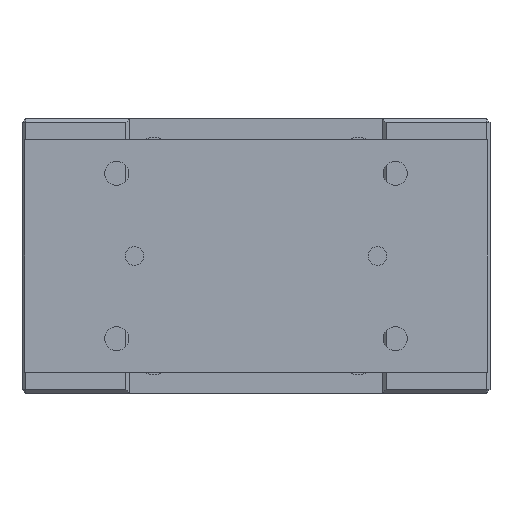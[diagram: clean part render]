
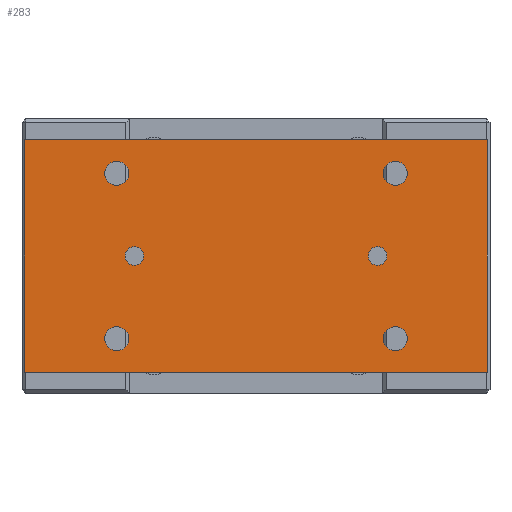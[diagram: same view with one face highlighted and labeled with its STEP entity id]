
A CAD part, left-side view. The second image highlights one B-rep face of the part: STEP entity #283.
In plain terms, the highlighted planar face has unit normal (-1, 0, 0).
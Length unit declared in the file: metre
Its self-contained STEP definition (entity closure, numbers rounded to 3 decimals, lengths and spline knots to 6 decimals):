
#283 = ADVANCED_FACE( '', ( #789, #790, #791, #792, #793, #794, #795 ), #796, .T. );
#789 = FACE_BOUND( '', #1679, .T. );
#790 = FACE_BOUND( '', #1680, .T. );
#791 = FACE_BOUND( '', #1681, .T. );
#792 = FACE_BOUND( '', #1682, .T. );
#793 = FACE_BOUND( '', #1683, .T. );
#794 = FACE_BOUND( '', #1684, .T. );
#795 = FACE_OUTER_BOUND( '', #1685, .T. );
#796 = PLANE( '', #1686 );
#1679 = EDGE_LOOP( '', ( #2583 ) );
#1680 = EDGE_LOOP( '', ( #2584 ) );
#1681 = EDGE_LOOP( '', ( #2585 ) );
#1682 = EDGE_LOOP( '', ( #2586 ) );
#1683 = EDGE_LOOP( '', ( #2587 ) );
#1684 = EDGE_LOOP( '', ( #2588 ) );
#1685 = EDGE_LOOP( '', ( #2589, #2590, #2591, #2592 ) );
#1686 = AXIS2_PLACEMENT_3D( '', #2593, #2594, #2595 );
#2583 = ORIENTED_EDGE( '', *, *, #4307, .F. );
#2584 = ORIENTED_EDGE( '', *, *, #4308, .T. );
#2585 = ORIENTED_EDGE( '', *, *, #4309, .F. );
#2586 = ORIENTED_EDGE( '', *, *, #4310, .F. );
#2587 = ORIENTED_EDGE( '', *, *, #4311, .F. );
#2588 = ORIENTED_EDGE( '', *, *, #4312, .F. );
#2589 = ORIENTED_EDGE( '', *, *, #4313, .T. );
#2590 = ORIENTED_EDGE( '', *, *, #4314, .T. );
#2591 = ORIENTED_EDGE( '', *, *, #4315, .T. );
#2592 = ORIENTED_EDGE( '', *, *, #4316, .T. );
#2593 = CARTESIAN_POINT( '', ( -0.143, -0.1245, -0.0115 ) );
#2594 = DIRECTION( '', ( -1., 0., 0. ) );
#2595 = DIRECTION( '', ( 0., 0., 1. ) );
#4307 = EDGE_CURVE( '', #4966, #4966, #4967, .T. );
#4308 = EDGE_CURVE( '', #4968, #4968, #4969, .T. );
#4309 = EDGE_CURVE( '', #4970, #4970, #4971, .T. );
#4310 = EDGE_CURVE( '', #4972, #4972, #4973, .T. );
#4311 = EDGE_CURVE( '', #4974, #4974, #4975, .T. );
#4312 = EDGE_CURVE( '', #4976, #4976, #4977, .T. );
#4313 = EDGE_CURVE( '', #4978, #4979, #4980, .T. );
#4314 = EDGE_CURVE( '', #4979, #4981, #4982, .T. );
#4315 = EDGE_CURVE( '', #4981, #4983, #4984, .T. );
#4316 = EDGE_CURVE( '', #4983, #4978, #4985, .T. );
#4966 = VERTEX_POINT( '', #5910 );
#4967 = CIRCLE( '', #5911, 0.005 );
#4968 = VERTEX_POINT( '', #5912 );
#4969 = CIRCLE( '', #5913, 0.005 );
#4970 = VERTEX_POINT( '', #5914 );
#4971 = CIRCLE( '', #5915, 0.0065 );
#4972 = VERTEX_POINT( '', #5916 );
#4973 = CIRCLE( '', #5917, 0.0065 );
#4974 = VERTEX_POINT( '', #5918 );
#4975 = CIRCLE( '', #5919, 0.0065 );
#4976 = VERTEX_POINT( '', #5920 );
#4977 = CIRCLE( '', #5921, 0.0065 );
#4978 = VERTEX_POINT( '', #5922 );
#4979 = VERTEX_POINT( '', #5923 );
#4980 = LINE( '', #5924, #5925 );
#4981 = VERTEX_POINT( '', #5926 );
#4982 = LINE( '', #5927, #5928 );
#4983 = VERTEX_POINT( '', #5929 );
#4984 = LINE( '', #5930, #5931 );
#4985 = LINE( '', #5932, #5933 );
#5910 = CARTESIAN_POINT( '', ( -0.143, -0.0705, -0.074 ) );
#5911 = AXIS2_PLACEMENT_3D( '', #7314, #7315, #7316 );
#5912 = CARTESIAN_POINT( '', ( -0.143, 0.0705, -0.074 ) );
#5913 = AXIS2_PLACEMENT_3D( '', #7317, #7318, #7319 );
#5914 = CARTESIAN_POINT( '', ( -0.143, -0.075, -0.112 ) );
#5915 = AXIS2_PLACEMENT_3D( '', #7320, #7321, #7322 );
#5916 = CARTESIAN_POINT( '', ( -0.143, 0.075, -0.112 ) );
#5917 = AXIS2_PLACEMENT_3D( '', #7323, #7324, #7325 );
#5918 = CARTESIAN_POINT( '', ( -0.143, -0.075, -0.023 ) );
#5919 = AXIS2_PLACEMENT_3D( '', #7326, #7327, #7328 );
#5920 = CARTESIAN_POINT( '', ( -0.143, 0.075, -0.023 ) );
#5921 = AXIS2_PLACEMENT_3D( '', #7329, #7330, #7331 );
#5922 = CARTESIAN_POINT( '', ( -0.143, -0.1245, -0.1365 ) );
#5923 = CARTESIAN_POINT( '', ( -0.143, -0.1245, -0.0115 ) );
#5924 = CARTESIAN_POINT( '', ( -0.143, -0.1245, -0.1365 ) );
#5925 = VECTOR( '', #7332, 1. );
#5926 = CARTESIAN_POINT( '', ( -0.143, 0.1245, -0.0115 ) );
#5927 = CARTESIAN_POINT( '', ( -0.143, -0.1245, -0.0115 ) );
#5928 = VECTOR( '', #7333, 1. );
#5929 = CARTESIAN_POINT( '', ( -0.143, 0.1245, -0.1365 ) );
#5930 = CARTESIAN_POINT( '', ( -0.143, 0.1245, -0.0115 ) );
#5931 = VECTOR( '', #7334, 1. );
#5932 = CARTESIAN_POINT( '', ( -0.143, 0.1245, -0.1365 ) );
#5933 = VECTOR( '', #7335, 1. );
#7314 = CARTESIAN_POINT( '', ( -0.143, -0.0655, -0.074 ) );
#7315 = DIRECTION( '', ( -1., 0., 0. ) );
#7316 = DIRECTION( '', ( 0., -1., 0. ) );
#7317 = CARTESIAN_POINT( '', ( -0.143, 0.0655, -0.074 ) );
#7318 = DIRECTION( '', ( 1., 0., 0. ) );
#7319 = DIRECTION( '', ( 0., 1., 0. ) );
#7320 = CARTESIAN_POINT( '', ( -0.143, -0.075, -0.1185 ) );
#7321 = DIRECTION( '', ( -1., 0., 0. ) );
#7322 = DIRECTION( '', ( 0., 0., 1. ) );
#7323 = CARTESIAN_POINT( '', ( -0.143, 0.075, -0.1185 ) );
#7324 = DIRECTION( '', ( -1., 0., 0. ) );
#7325 = DIRECTION( '', ( 0., 0., 1. ) );
#7326 = CARTESIAN_POINT( '', ( -0.143, -0.075, -0.0295 ) );
#7327 = DIRECTION( '', ( -1., 0., 0. ) );
#7328 = DIRECTION( '', ( 0., 0., 1. ) );
#7329 = CARTESIAN_POINT( '', ( -0.143, 0.075, -0.0295 ) );
#7330 = DIRECTION( '', ( -1., 0., 0. ) );
#7331 = DIRECTION( '', ( 0., 0., 1. ) );
#7332 = DIRECTION( '', ( 0., 0., 1. ) );
#7333 = DIRECTION( '', ( 0., 1., 0. ) );
#7334 = DIRECTION( '', ( 0., 0., -1. ) );
#7335 = DIRECTION( '', ( 0., -1., 0. ) );
